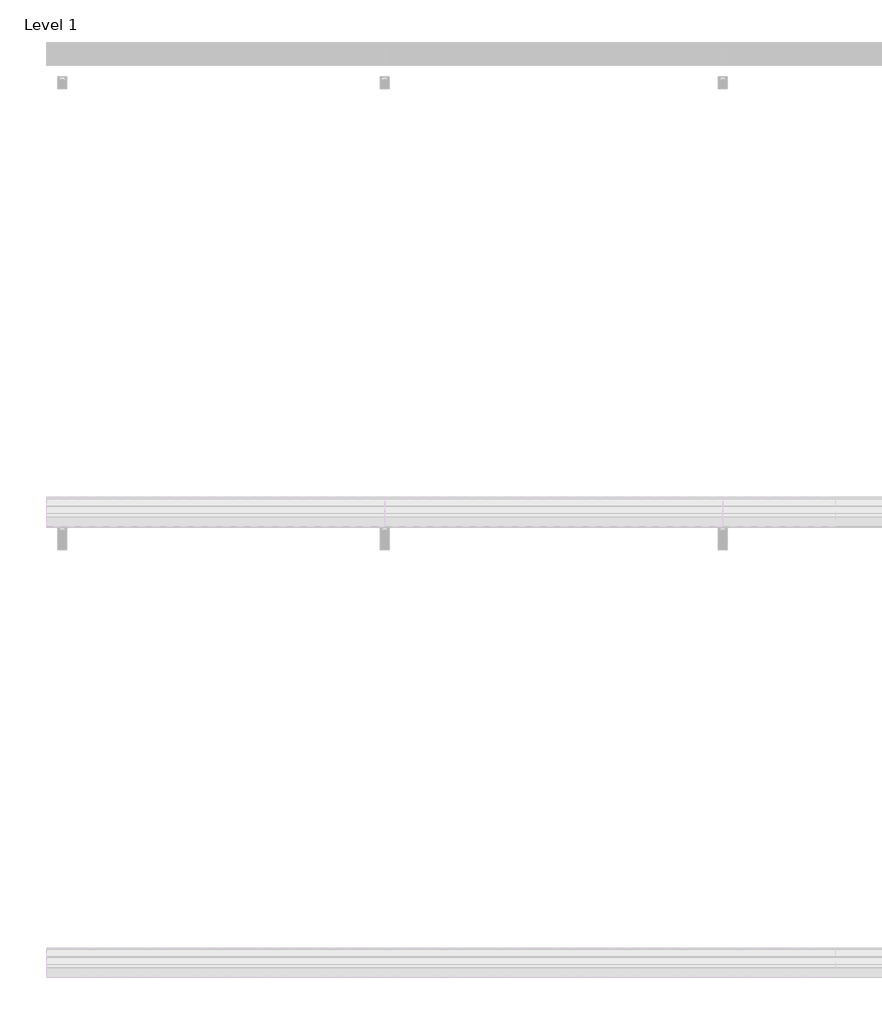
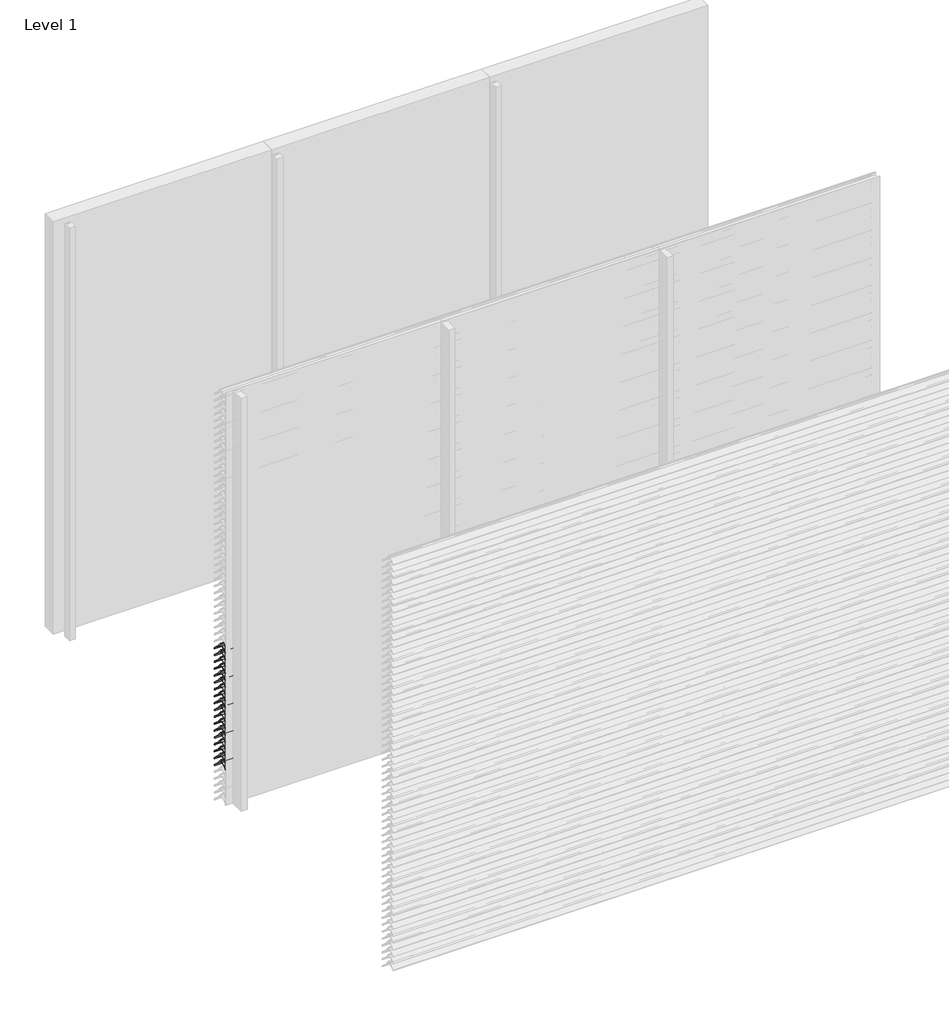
# One storey, part 60 of 173: 18 proxies.
"""IFC4 building model written with IfcOpenShell, lengths in millimetres."""

from ifc_helpers import new_model, si_unit, point, frame, frame_2d, origin, place, context, project, spatial, polyline, circle_curve, trimmed, segment, composite_curve, outline, extrude, element, save

model = new_model("IFC4")

# Units and contexts
model_context = context("Model", 3, world=origin())
ifc_project = project(units=[si_unit("LENGTHUNIT", "METRE", prefix="MILLI")], contexts=[model_context])

# Site, building, storey
site = spatial("IfcSite", under=ifc_project)
building = spatial("IfcBuilding", under=site)
storey = spatial("IfcBuildingStorey", under=building, Name="Level 1", Elevation=0.0)

# Proxies
placement = place(None, origin())
element("IfcBuildingElementProxy", 1, Name="Wall Sweeps", at=placement, inside=storey, context=model_context, shape_type="SweptSolid", body=[
    extrude(outline(composite_curve([segment(polyline([(-35998.0, 1109.1474905), (-35998.0, 1111.6227417)]), True, "CONTINUOUS"), segment(trimmed(circle_curve(frame_2d((-35951.2682172, 1066.2200208)), 65.1557103), [point((-35998.0, 1111.6227417))], [point((-35954.4014323, 1131.3003524))], False, "CARTESIAN"), True, "CONTINUOUS"), segment(polyline([(-35954.4014323, 1131.3003524), (-35934.8315836, 1131.3003524)]), True, "CONTINUOUS"), segment(trimmed(circle_curve(frame_2d((-35732.7329489, 1278.5533172)), 250.0545817), [point((-35934.8315836, 1131.3003524))], [point((-35941.4452143, 1140.8344583))], False, "CARTESIAN"), True, "CONTINUOUS"), segment(trimmed(circle_curve(frame_2d((-35953.2981792, 1135.1737835)), 13.1352966), [point((-35941.4452143, 1140.8344583))], [point((-35953.8171475, 1148.298824))], True, "CARTESIAN"), True, "CONTINUOUS"), segment(polyline([(-35953.8171475, 1148.298824), (-35953.8171475, 1150.0)]), True, "CONTINUOUS"), segment(trimmed(circle_curve(frame_2d((-35953.2981792, 1135.1737835)), 14.8352966), [point((-35953.8171475, 1150.0))], [point((-35939.9637661, 1141.6760487))], False, "CARTESIAN"), True, "CONTINUOUS"), segment(trimmed(circle_curve(frame_2d((-35732.7329489, 1278.5533172)), 248.3545817), [point((-35939.9637661, 1141.6760487))], [point((-35873.8787895, 1074.2059416))], True, "CARTESIAN"), True, "CONTINUOUS"), segment(trimmed(circle_curve(frame_2d((-35883.8147537, 1061.6649442)), 16.0), [point((-35873.8787895, 1074.2059416))], [point((-35867.8648347, 1060.4))], False, "CARTESIAN"), True, "CONTINUOUS"), segment(polyline([(-35867.8648347, 1060.4), (-35869.6712069, 1060.4)]), True, "CONTINUOUS"), segment(trimmed(circle_curve(frame_2d((-35883.8147537, 1061.6649442)), 14.2), [point((-35869.6712069, 1060.4))], [point((-35874.9518628, 1072.7594998))], True, "CARTESIAN"), True, "CONTINUOUS"), segment(trimmed(circle_curve(frame_2d((-35732.7329489, 1278.5533172)), 250.1545817), [point((-35874.9518628, 1072.7594998))], [point((-35933.7064024, 1129.6003524))], False, "CARTESIAN"), True, "CONTINUOUS"), segment(polyline([(-35933.7064024, 1129.6003524), (-35954.3602632, 1129.6003524)]), True, "CONTINUOUS"), segment(trimmed(circle_curve(frame_2d((-35951.2682172, 1066.2200208)), 63.4557103), [point((-35954.3602632, 1129.6003524))], [point((-35998.0, 1109.1474905))], True, "CARTESIAN"), True, "CONTINUOUS")], self_intersect=False)), frame((0.0, 0.0, 0.0), z_axis=(1.0, 0.0, 0.0), x_axis=(0.0, 1.0, 0.0)), (0.0, 0.0, 1.0), 1500.0),
])
element("IfcBuildingElementProxy", 2, Name="Wall Sweeps", at=placement, inside=storey, context=model_context, shape_type="SweptSolid", body=[
    extrude(outline(composite_curve([segment(polyline([(-35998.0, 1059.1474905), (-35998.0, 1061.6227417)]), True, "CONTINUOUS"), segment(trimmed(circle_curve(frame_2d((-35951.2682172, 1016.2200208)), 65.1557103), [point((-35998.0, 1061.6227417))], [point((-35954.4014323, 1081.3003524))], False, "CARTESIAN"), True, "CONTINUOUS"), segment(polyline([(-35954.4014323, 1081.3003524), (-35934.8315836, 1081.3003524)]), True, "CONTINUOUS"), segment(trimmed(circle_curve(frame_2d((-35732.7329489, 1228.5533172)), 250.0545817), [point((-35934.8315836, 1081.3003524))], [point((-35941.4452143, 1090.8344583))], False, "CARTESIAN"), True, "CONTINUOUS"), segment(trimmed(circle_curve(frame_2d((-35953.2981792, 1085.1737835)), 13.1352966), [point((-35941.4452143, 1090.8344583))], [point((-35953.8171475, 1098.298824))], True, "CARTESIAN"), True, "CONTINUOUS"), segment(polyline([(-35953.8171475, 1098.298824), (-35953.8171475, 1100.0)]), True, "CONTINUOUS"), segment(trimmed(circle_curve(frame_2d((-35953.2981792, 1085.1737835)), 14.8352966), [point((-35953.8171475, 1100.0))], [point((-35939.9637661, 1091.6760487))], False, "CARTESIAN"), True, "CONTINUOUS"), segment(trimmed(circle_curve(frame_2d((-35732.7329489, 1228.5533172)), 248.3545817), [point((-35939.9637661, 1091.6760487))], [point((-35873.8787895, 1024.2059416))], True, "CARTESIAN"), True, "CONTINUOUS"), segment(trimmed(circle_curve(frame_2d((-35883.8147537, 1011.6649442)), 16.0), [point((-35873.8787895, 1024.2059416))], [point((-35867.8648347, 1010.4))], False, "CARTESIAN"), True, "CONTINUOUS"), segment(polyline([(-35867.8648347, 1010.4), (-35869.6712069, 1010.4)]), True, "CONTINUOUS"), segment(trimmed(circle_curve(frame_2d((-35883.8147537, 1011.6649442)), 14.2), [point((-35869.6712069, 1010.4))], [point((-35874.9518628, 1022.7594998))], True, "CARTESIAN"), True, "CONTINUOUS"), segment(trimmed(circle_curve(frame_2d((-35732.7329489, 1228.5533172)), 250.1545817), [point((-35874.9518628, 1022.7594998))], [point((-35933.7064024, 1079.6003524))], False, "CARTESIAN"), True, "CONTINUOUS"), segment(polyline([(-35933.7064024, 1079.6003524), (-35954.3602632, 1079.6003524)]), True, "CONTINUOUS"), segment(trimmed(circle_curve(frame_2d((-35951.2682172, 1016.2200208)), 63.4557103), [point((-35954.3602632, 1079.6003524))], [point((-35998.0, 1059.1474905))], True, "CARTESIAN"), True, "CONTINUOUS")], self_intersect=False)), frame((0.0, 0.0, 0.0), z_axis=(1.0, 0.0, 0.0), x_axis=(0.0, 1.0, 0.0)), (0.0, 0.0, 1.0), 1500.0),
])
element("IfcBuildingElementProxy", 3, Name="Wall Sweeps", at=placement, inside=storey, context=model_context, shape_type="SweptSolid", body=[
    extrude(outline(composite_curve([segment(polyline([(-35998.0, 1009.1474905), (-35998.0, 1011.6227417)]), True, "CONTINUOUS"), segment(trimmed(circle_curve(frame_2d((-35951.2682172, 966.2200208)), 65.1557103), [point((-35998.0, 1011.6227417))], [point((-35954.4014323, 1031.3003524))], False, "CARTESIAN"), True, "CONTINUOUS"), segment(polyline([(-35954.4014323, 1031.3003524), (-35934.8315836, 1031.3003524)]), True, "CONTINUOUS"), segment(trimmed(circle_curve(frame_2d((-35732.7329489, 1178.5533172)), 250.0545817), [point((-35934.8315836, 1031.3003524))], [point((-35941.4452143, 1040.8344583))], False, "CARTESIAN"), True, "CONTINUOUS"), segment(trimmed(circle_curve(frame_2d((-35953.2981792, 1035.1737835)), 13.1352966), [point((-35941.4452143, 1040.8344583))], [point((-35953.8171475, 1048.298824))], True, "CARTESIAN"), True, "CONTINUOUS"), segment(polyline([(-35953.8171475, 1048.298824), (-35953.8171475, 1050.0)]), True, "CONTINUOUS"), segment(trimmed(circle_curve(frame_2d((-35953.2981792, 1035.1737835)), 14.8352966), [point((-35953.8171475, 1050.0))], [point((-35939.9637661, 1041.6760487))], False, "CARTESIAN"), True, "CONTINUOUS"), segment(trimmed(circle_curve(frame_2d((-35732.7329489, 1178.5533172)), 248.3545817), [point((-35939.9637661, 1041.6760487))], [point((-35873.8787895, 974.2059416))], True, "CARTESIAN"), True, "CONTINUOUS"), segment(trimmed(circle_curve(frame_2d((-35883.8147537, 961.6649442)), 16.0), [point((-35873.8787895, 974.2059416))], [point((-35867.8648347, 960.4))], False, "CARTESIAN"), True, "CONTINUOUS"), segment(polyline([(-35867.8648347, 960.4), (-35869.6712069, 960.4)]), True, "CONTINUOUS"), segment(trimmed(circle_curve(frame_2d((-35883.8147537, 961.6649442)), 14.2), [point((-35869.6712069, 960.4))], [point((-35874.9518628, 972.7594998))], True, "CARTESIAN"), True, "CONTINUOUS"), segment(trimmed(circle_curve(frame_2d((-35732.7329489, 1178.5533172)), 250.1545817), [point((-35874.9518628, 972.7594998))], [point((-35933.7064024, 1029.6003524))], False, "CARTESIAN"), True, "CONTINUOUS"), segment(polyline([(-35933.7064024, 1029.6003524), (-35954.3602632, 1029.6003524)]), True, "CONTINUOUS"), segment(trimmed(circle_curve(frame_2d((-35951.2682172, 966.2200208)), 63.4557103), [point((-35954.3602632, 1029.6003524))], [point((-35998.0, 1009.1474905))], True, "CARTESIAN"), True, "CONTINUOUS")], self_intersect=False)), frame((0.0, 0.0, 0.0), z_axis=(1.0, 0.0, 0.0), x_axis=(0.0, 1.0, 0.0)), (0.0, 0.0, 1.0), 1500.0),
])
element("IfcBuildingElementProxy", 4, Name="Wall Sweeps", at=placement, inside=storey, context=model_context, shape_type="SweptSolid", body=[
    extrude(outline(composite_curve([segment(polyline([(-35998.0, 959.1474905), (-35998.0, 961.6227417)]), True, "CONTINUOUS"), segment(trimmed(circle_curve(frame_2d((-35951.2682172, 916.2200208)), 65.1557103), [point((-35998.0, 961.6227417))], [point((-35954.4014323, 981.3003524))], False, "CARTESIAN"), True, "CONTINUOUS"), segment(polyline([(-35954.4014323, 981.3003524), (-35934.8315836, 981.3003524)]), True, "CONTINUOUS"), segment(trimmed(circle_curve(frame_2d((-35732.7329489, 1128.5533172)), 250.0545817), [point((-35934.8315836, 981.3003524))], [point((-35941.4452143, 990.8344583))], False, "CARTESIAN"), True, "CONTINUOUS"), segment(trimmed(circle_curve(frame_2d((-35953.2981792, 985.1737835)), 13.1352966), [point((-35941.4452143, 990.8344583))], [point((-35953.8171475, 998.298824))], True, "CARTESIAN"), True, "CONTINUOUS"), segment(polyline([(-35953.8171475, 998.298824), (-35953.8171475, 1000.0)]), True, "CONTINUOUS"), segment(trimmed(circle_curve(frame_2d((-35953.2981792, 985.1737835)), 14.8352966), [point((-35953.8171475, 1000.0))], [point((-35939.9637661, 991.6760487))], False, "CARTESIAN"), True, "CONTINUOUS"), segment(trimmed(circle_curve(frame_2d((-35732.7329489, 1128.5533172)), 248.3545817), [point((-35939.9637661, 991.6760487))], [point((-35873.8787895, 924.2059416))], True, "CARTESIAN"), True, "CONTINUOUS"), segment(trimmed(circle_curve(frame_2d((-35883.8147537, 911.6649442)), 16.0), [point((-35873.8787895, 924.2059416))], [point((-35867.8648347, 910.4))], False, "CARTESIAN"), True, "CONTINUOUS"), segment(polyline([(-35867.8648347, 910.4), (-35869.6712069, 910.4)]), True, "CONTINUOUS"), segment(trimmed(circle_curve(frame_2d((-35883.8147537, 911.6649442)), 14.2), [point((-35869.6712069, 910.4))], [point((-35874.9518628, 922.7594998))], True, "CARTESIAN"), True, "CONTINUOUS"), segment(trimmed(circle_curve(frame_2d((-35732.7329489, 1128.5533172)), 250.1545817), [point((-35874.9518628, 922.7594998))], [point((-35933.7064024, 979.6003524))], False, "CARTESIAN"), True, "CONTINUOUS"), segment(polyline([(-35933.7064024, 979.6003524), (-35954.3602632, 979.6003524)]), True, "CONTINUOUS"), segment(trimmed(circle_curve(frame_2d((-35951.2682172, 916.2200208)), 63.4557103), [point((-35954.3602632, 979.6003524))], [point((-35998.0, 959.1474905))], True, "CARTESIAN"), True, "CONTINUOUS")], self_intersect=False)), frame((0.0, 0.0, 0.0), z_axis=(1.0, 0.0, 0.0), x_axis=(0.0, 1.0, 0.0)), (0.0, 0.0, 1.0), 1500.0),
])
element("IfcBuildingElementProxy", 5, Name="Wall Sweeps", at=placement, inside=storey, context=model_context, shape_type="SweptSolid", body=[
    extrude(outline(composite_curve([segment(polyline([(-35998.0, 909.1474905), (-35998.0, 911.6227417)]), True, "CONTINUOUS"), segment(trimmed(circle_curve(frame_2d((-35951.2682172, 866.2200208)), 65.1557103), [point((-35998.0, 911.6227417))], [point((-35954.4014323, 931.3003524))], False, "CARTESIAN"), True, "CONTINUOUS"), segment(polyline([(-35954.4014323, 931.3003524), (-35934.8315836, 931.3003524)]), True, "CONTINUOUS"), segment(trimmed(circle_curve(frame_2d((-35732.7329489, 1078.5533172)), 250.0545817), [point((-35934.8315836, 931.3003524))], [point((-35941.4452143, 940.8344583))], False, "CARTESIAN"), True, "CONTINUOUS"), segment(trimmed(circle_curve(frame_2d((-35953.2981792, 935.1737835)), 13.1352966), [point((-35941.4452143, 940.8344583))], [point((-35953.8171475, 948.298824))], True, "CARTESIAN"), True, "CONTINUOUS"), segment(polyline([(-35953.8171475, 948.298824), (-35953.8171475, 950.0)]), True, "CONTINUOUS"), segment(trimmed(circle_curve(frame_2d((-35953.2981792, 935.1737835)), 14.8352966), [point((-35953.8171475, 950.0))], [point((-35939.9637661, 941.6760487))], False, "CARTESIAN"), True, "CONTINUOUS"), segment(trimmed(circle_curve(frame_2d((-35732.7329489, 1078.5533172)), 248.3545817), [point((-35939.9637661, 941.6760487))], [point((-35873.8787895, 874.2059416))], True, "CARTESIAN"), True, "CONTINUOUS"), segment(trimmed(circle_curve(frame_2d((-35883.8147537, 861.6649442)), 16.0), [point((-35873.8787895, 874.2059416))], [point((-35867.8648347, 860.4))], False, "CARTESIAN"), True, "CONTINUOUS"), segment(polyline([(-35867.8648347, 860.4), (-35869.6712069, 860.4)]), True, "CONTINUOUS"), segment(trimmed(circle_curve(frame_2d((-35883.8147537, 861.6649442)), 14.2), [point((-35869.6712069, 860.4))], [point((-35874.9518628, 872.7594998))], True, "CARTESIAN"), True, "CONTINUOUS"), segment(trimmed(circle_curve(frame_2d((-35732.7329489, 1078.5533172)), 250.1545817), [point((-35874.9518628, 872.7594998))], [point((-35933.7064024, 929.6003524))], False, "CARTESIAN"), True, "CONTINUOUS"), segment(polyline([(-35933.7064024, 929.6003524), (-35954.3602632, 929.6003524)]), True, "CONTINUOUS"), segment(trimmed(circle_curve(frame_2d((-35951.2682172, 866.2200208)), 63.4557103), [point((-35954.3602632, 929.6003524))], [point((-35998.0, 909.1474905))], True, "CARTESIAN"), True, "CONTINUOUS")], self_intersect=False)), frame((0.0, 0.0, 0.0), z_axis=(1.0, 0.0, 0.0), x_axis=(0.0, 1.0, 0.0)), (0.0, 0.0, 1.0), 1500.0),
])
element("IfcBuildingElementProxy", 6, Name="Wall Sweeps", at=placement, inside=storey, context=model_context, shape_type="SweptSolid", body=[
    extrude(outline(composite_curve([segment(polyline([(-35998.0, 859.1474905), (-35998.0, 861.6227417)]), True, "CONTINUOUS"), segment(trimmed(circle_curve(frame_2d((-35951.2682172, 816.2200208)), 65.1557103), [point((-35998.0, 861.6227417))], [point((-35954.4014323, 881.3003524))], False, "CARTESIAN"), True, "CONTINUOUS"), segment(polyline([(-35954.4014323, 881.3003524), (-35934.8315836, 881.3003524)]), True, "CONTINUOUS"), segment(trimmed(circle_curve(frame_2d((-35732.7329489, 1028.5533172)), 250.0545817), [point((-35934.8315836, 881.3003524))], [point((-35941.4452143, 890.8344583))], False, "CARTESIAN"), True, "CONTINUOUS"), segment(trimmed(circle_curve(frame_2d((-35953.2981792, 885.1737835)), 13.1352966), [point((-35941.4452143, 890.8344583))], [point((-35953.8171475, 898.298824))], True, "CARTESIAN"), True, "CONTINUOUS"), segment(polyline([(-35953.8171475, 898.298824), (-35953.8171475, 900.0)]), True, "CONTINUOUS"), segment(trimmed(circle_curve(frame_2d((-35953.2981792, 885.1737835)), 14.8352966), [point((-35953.8171475, 900.0))], [point((-35939.9637661, 891.6760487))], False, "CARTESIAN"), True, "CONTINUOUS"), segment(trimmed(circle_curve(frame_2d((-35732.7329489, 1028.5533172)), 248.3545817), [point((-35939.9637661, 891.6760487))], [point((-35873.8787895, 824.2059416))], True, "CARTESIAN"), True, "CONTINUOUS"), segment(trimmed(circle_curve(frame_2d((-35883.8147537, 811.6649442)), 16.0), [point((-35873.8787895, 824.2059416))], [point((-35867.8648347, 810.4))], False, "CARTESIAN"), True, "CONTINUOUS"), segment(polyline([(-35867.8648347, 810.4), (-35869.6712069, 810.4)]), True, "CONTINUOUS"), segment(trimmed(circle_curve(frame_2d((-35883.8147537, 811.6649442)), 14.2), [point((-35869.6712069, 810.4))], [point((-35874.9518628, 822.7594998))], True, "CARTESIAN"), True, "CONTINUOUS"), segment(trimmed(circle_curve(frame_2d((-35732.7329489, 1028.5533172)), 250.1545817), [point((-35874.9518628, 822.7594998))], [point((-35933.7064024, 879.6003524))], False, "CARTESIAN"), True, "CONTINUOUS"), segment(polyline([(-35933.7064024, 879.6003524), (-35954.3602632, 879.6003524)]), True, "CONTINUOUS"), segment(trimmed(circle_curve(frame_2d((-35951.2682172, 816.2200208)), 63.4557103), [point((-35954.3602632, 879.6003524))], [point((-35998.0, 859.1474905))], True, "CARTESIAN"), True, "CONTINUOUS")], self_intersect=False)), frame((0.0, 0.0, 0.0), z_axis=(1.0, 0.0, 0.0), x_axis=(0.0, 1.0, 0.0)), (0.0, 0.0, 1.0), 1500.0),
])
element("IfcBuildingElementProxy", 7, Name="Wall Sweeps", at=placement, inside=storey, context=model_context, shape_type="SweptSolid", body=[
    extrude(outline(composite_curve([segment(polyline([(-35998.0, 809.1474905), (-35998.0, 811.6227417)]), True, "CONTINUOUS"), segment(trimmed(circle_curve(frame_2d((-35951.2682172, 766.2200208)), 65.1557103), [point((-35998.0, 811.6227417))], [point((-35954.4014323, 831.3003524))], False, "CARTESIAN"), True, "CONTINUOUS"), segment(polyline([(-35954.4014323, 831.3003524), (-35934.8315836, 831.3003524)]), True, "CONTINUOUS"), segment(trimmed(circle_curve(frame_2d((-35732.7329489, 978.5533172)), 250.0545817), [point((-35934.8315836, 831.3003524))], [point((-35941.4452143, 840.8344583))], False, "CARTESIAN"), True, "CONTINUOUS"), segment(trimmed(circle_curve(frame_2d((-35953.2981792, 835.1737835)), 13.1352966), [point((-35941.4452143, 840.8344583))], [point((-35953.8171475, 848.298824))], True, "CARTESIAN"), True, "CONTINUOUS"), segment(polyline([(-35953.8171475, 848.298824), (-35953.8171475, 850.0)]), True, "CONTINUOUS"), segment(trimmed(circle_curve(frame_2d((-35953.2981792, 835.1737835)), 14.8352966), [point((-35953.8171475, 850.0))], [point((-35939.9637661, 841.6760487))], False, "CARTESIAN"), True, "CONTINUOUS"), segment(trimmed(circle_curve(frame_2d((-35732.7329489, 978.5533172)), 248.3545817), [point((-35939.9637661, 841.6760487))], [point((-35873.8787895, 774.2059416))], True, "CARTESIAN"), True, "CONTINUOUS"), segment(trimmed(circle_curve(frame_2d((-35883.8147537, 761.6649442)), 16.0), [point((-35873.8787895, 774.2059416))], [point((-35867.8648347, 760.4))], False, "CARTESIAN"), True, "CONTINUOUS"), segment(polyline([(-35867.8648347, 760.4), (-35869.6712069, 760.4)]), True, "CONTINUOUS"), segment(trimmed(circle_curve(frame_2d((-35883.8147537, 761.6649442)), 14.2), [point((-35869.6712069, 760.4))], [point((-35874.9518628, 772.7594998))], True, "CARTESIAN"), True, "CONTINUOUS"), segment(trimmed(circle_curve(frame_2d((-35732.7329489, 978.5533172)), 250.1545817), [point((-35874.9518628, 772.7594998))], [point((-35933.7064024, 829.6003524))], False, "CARTESIAN"), True, "CONTINUOUS"), segment(polyline([(-35933.7064024, 829.6003524), (-35954.3602632, 829.6003524)]), True, "CONTINUOUS"), segment(trimmed(circle_curve(frame_2d((-35951.2682172, 766.2200208)), 63.4557103), [point((-35954.3602632, 829.6003524))], [point((-35998.0, 809.1474905))], True, "CARTESIAN"), True, "CONTINUOUS")], self_intersect=False)), frame((0.0, 0.0, 0.0), z_axis=(1.0, 0.0, 0.0), x_axis=(0.0, 1.0, 0.0)), (0.0, 0.0, 1.0), 1500.0),
])
element("IfcBuildingElementProxy", 8, Name="Wall Sweeps", at=placement, inside=storey, context=model_context, shape_type="SweptSolid", body=[
    extrude(outline(composite_curve([segment(polyline([(-35998.0, 759.1474905), (-35998.0, 761.6227417)]), True, "CONTINUOUS"), segment(trimmed(circle_curve(frame_2d((-35951.2682172, 716.2200208)), 65.1557103), [point((-35998.0, 761.6227417))], [point((-35954.4014323, 781.3003524))], False, "CARTESIAN"), True, "CONTINUOUS"), segment(polyline([(-35954.4014323, 781.3003524), (-35934.8315836, 781.3003524)]), True, "CONTINUOUS"), segment(trimmed(circle_curve(frame_2d((-35732.7329489, 928.5533172)), 250.0545817), [point((-35934.8315836, 781.3003524))], [point((-35941.4452143, 790.8344583))], False, "CARTESIAN"), True, "CONTINUOUS"), segment(trimmed(circle_curve(frame_2d((-35953.2981792, 785.1737835)), 13.1352966), [point((-35941.4452143, 790.8344583))], [point((-35953.8171475, 798.298824))], True, "CARTESIAN"), True, "CONTINUOUS"), segment(polyline([(-35953.8171475, 798.298824), (-35953.8171475, 800.0)]), True, "CONTINUOUS"), segment(trimmed(circle_curve(frame_2d((-35953.2981792, 785.1737835)), 14.8352966), [point((-35953.8171475, 800.0))], [point((-35939.9637661, 791.6760487))], False, "CARTESIAN"), True, "CONTINUOUS"), segment(trimmed(circle_curve(frame_2d((-35732.7329489, 928.5533172)), 248.3545817), [point((-35939.9637661, 791.6760487))], [point((-35873.8787895, 724.2059416))], True, "CARTESIAN"), True, "CONTINUOUS"), segment(trimmed(circle_curve(frame_2d((-35883.8147537, 711.6649442)), 16.0), [point((-35873.8787895, 724.2059416))], [point((-35867.8648347, 710.4))], False, "CARTESIAN"), True, "CONTINUOUS"), segment(polyline([(-35867.8648347, 710.4), (-35869.6712069, 710.4)]), True, "CONTINUOUS"), segment(trimmed(circle_curve(frame_2d((-35883.8147537, 711.6649442)), 14.2), [point((-35869.6712069, 710.4))], [point((-35874.9518628, 722.7594998))], True, "CARTESIAN"), True, "CONTINUOUS"), segment(trimmed(circle_curve(frame_2d((-35732.7329489, 928.5533172)), 250.1545817), [point((-35874.9518628, 722.7594998))], [point((-35933.7064024, 779.6003524))], False, "CARTESIAN"), True, "CONTINUOUS"), segment(polyline([(-35933.7064024, 779.6003524), (-35954.3602632, 779.6003524)]), True, "CONTINUOUS"), segment(trimmed(circle_curve(frame_2d((-35951.2682172, 716.2200208)), 63.4557103), [point((-35954.3602632, 779.6003524))], [point((-35998.0, 759.1474905))], True, "CARTESIAN"), True, "CONTINUOUS")], self_intersect=False)), frame((0.0, 0.0, 0.0), z_axis=(1.0, 0.0, 0.0), x_axis=(0.0, 1.0, 0.0)), (0.0, 0.0, 1.0), 1500.0),
])
element("IfcBuildingElementProxy", 9, Name="Wall Sweeps", at=placement, inside=storey, context=model_context, shape_type="SweptSolid", body=[
    extrude(outline(composite_curve([segment(polyline([(-35998.0, 709.1474905), (-35998.0, 711.6227417)]), True, "CONTINUOUS"), segment(trimmed(circle_curve(frame_2d((-35951.2682172, 666.2200208)), 65.1557103), [point((-35998.0, 711.6227417))], [point((-35954.4014323, 731.3003524))], False, "CARTESIAN"), True, "CONTINUOUS"), segment(polyline([(-35954.4014323, 731.3003524), (-35934.8315836, 731.3003524)]), True, "CONTINUOUS"), segment(trimmed(circle_curve(frame_2d((-35732.7329489, 878.5533172)), 250.0545817), [point((-35934.8315836, 731.3003524))], [point((-35941.4452143, 740.8344583))], False, "CARTESIAN"), True, "CONTINUOUS"), segment(trimmed(circle_curve(frame_2d((-35953.2981792, 735.1737835)), 13.1352966), [point((-35941.4452143, 740.8344583))], [point((-35953.8171475, 748.298824))], True, "CARTESIAN"), True, "CONTINUOUS"), segment(polyline([(-35953.8171475, 748.298824), (-35953.8171475, 750.0)]), True, "CONTINUOUS"), segment(trimmed(circle_curve(frame_2d((-35953.2981792, 735.1737835)), 14.8352966), [point((-35953.8171475, 750.0))], [point((-35939.9637661, 741.6760487))], False, "CARTESIAN"), True, "CONTINUOUS"), segment(trimmed(circle_curve(frame_2d((-35732.7329489, 878.5533172)), 248.3545817), [point((-35939.9637661, 741.6760487))], [point((-35873.8787895, 674.2059416))], True, "CARTESIAN"), True, "CONTINUOUS"), segment(trimmed(circle_curve(frame_2d((-35883.8147537, 661.6649442)), 16.0), [point((-35873.8787895, 674.2059416))], [point((-35867.8648347, 660.4))], False, "CARTESIAN"), True, "CONTINUOUS"), segment(polyline([(-35867.8648347, 660.4), (-35869.6712069, 660.4)]), True, "CONTINUOUS"), segment(trimmed(circle_curve(frame_2d((-35883.8147537, 661.6649442)), 14.2), [point((-35869.6712069, 660.4))], [point((-35874.9518628, 672.7594998))], True, "CARTESIAN"), True, "CONTINUOUS"), segment(trimmed(circle_curve(frame_2d((-35732.7329489, 878.5533172)), 250.1545817), [point((-35874.9518628, 672.7594998))], [point((-35933.7064024, 729.6003524))], False, "CARTESIAN"), True, "CONTINUOUS"), segment(polyline([(-35933.7064024, 729.6003524), (-35954.3602632, 729.6003524)]), True, "CONTINUOUS"), segment(trimmed(circle_curve(frame_2d((-35951.2682172, 666.2200208)), 63.4557103), [point((-35954.3602632, 729.6003524))], [point((-35998.0, 709.1474905))], True, "CARTESIAN"), True, "CONTINUOUS")], self_intersect=False)), frame((0.0, 0.0, 0.0), z_axis=(1.0, 0.0, 0.0), x_axis=(0.0, 1.0, 0.0)), (0.0, 0.0, 1.0), 1500.0),
])
element("IfcBuildingElementProxy", 10, Name="Wall Sweeps", at=placement, inside=storey, context=model_context, shape_type="SweptSolid", body=[
    extrude(outline(composite_curve([segment(polyline([(-35998.0, 659.1474905), (-35998.0, 661.6227417)]), True, "CONTINUOUS"), segment(trimmed(circle_curve(frame_2d((-35951.2682172, 616.2200208)), 65.1557103), [point((-35998.0, 661.6227417))], [point((-35954.4014323, 681.3003524))], False, "CARTESIAN"), True, "CONTINUOUS"), segment(polyline([(-35954.4014323, 681.3003524), (-35934.8315836, 681.3003524)]), True, "CONTINUOUS"), segment(trimmed(circle_curve(frame_2d((-35732.7329489, 828.5533172)), 250.0545817), [point((-35934.8315836, 681.3003524))], [point((-35941.4452143, 690.8344583))], False, "CARTESIAN"), True, "CONTINUOUS"), segment(trimmed(circle_curve(frame_2d((-35953.2981792, 685.1737835)), 13.1352966), [point((-35941.4452143, 690.8344583))], [point((-35953.8171475, 698.298824))], True, "CARTESIAN"), True, "CONTINUOUS"), segment(polyline([(-35953.8171475, 698.298824), (-35953.8171475, 700.0)]), True, "CONTINUOUS"), segment(trimmed(circle_curve(frame_2d((-35953.2981792, 685.1737835)), 14.8352966), [point((-35953.8171475, 700.0))], [point((-35939.9637661, 691.6760487))], False, "CARTESIAN"), True, "CONTINUOUS"), segment(trimmed(circle_curve(frame_2d((-35732.7329489, 828.5533172)), 248.3545817), [point((-35939.9637661, 691.6760487))], [point((-35873.8787895, 624.2059416))], True, "CARTESIAN"), True, "CONTINUOUS"), segment(trimmed(circle_curve(frame_2d((-35883.8147537, 611.6649442)), 16.0), [point((-35873.8787895, 624.2059416))], [point((-35867.8648347, 610.4))], False, "CARTESIAN"), True, "CONTINUOUS"), segment(polyline([(-35867.8648347, 610.4), (-35869.6712069, 610.4)]), True, "CONTINUOUS"), segment(trimmed(circle_curve(frame_2d((-35883.8147537, 611.6649442)), 14.2), [point((-35869.6712069, 610.4))], [point((-35874.9518628, 622.7594998))], True, "CARTESIAN"), True, "CONTINUOUS"), segment(trimmed(circle_curve(frame_2d((-35732.7329489, 828.5533172)), 250.1545817), [point((-35874.9518628, 622.7594998))], [point((-35933.7064024, 679.6003524))], False, "CARTESIAN"), True, "CONTINUOUS"), segment(polyline([(-35933.7064024, 679.6003524), (-35954.3602632, 679.6003524)]), True, "CONTINUOUS"), segment(trimmed(circle_curve(frame_2d((-35951.2682172, 616.2200208)), 63.4557103), [point((-35954.3602632, 679.6003524))], [point((-35998.0, 659.1474905))], True, "CARTESIAN"), True, "CONTINUOUS")], self_intersect=False)), frame((0.0, 0.0, 0.0), z_axis=(1.0, 0.0, 0.0), x_axis=(0.0, 1.0, 0.0)), (0.0, 0.0, 1.0), 1500.0),
])
element("IfcBuildingElementProxy", 11, Name="Wall Sweeps", at=placement, inside=storey, context=model_context, shape_type="SweptSolid", body=[
    extrude(outline(composite_curve([segment(polyline([(-35998.0, 609.1474905), (-35998.0, 611.6227417)]), True, "CONTINUOUS"), segment(trimmed(circle_curve(frame_2d((-35951.2682172, 566.2200208)), 65.1557103), [point((-35998.0, 611.6227417))], [point((-35954.4014323, 631.3003524))], False, "CARTESIAN"), True, "CONTINUOUS"), segment(polyline([(-35954.4014323, 631.3003524), (-35934.8315836, 631.3003524)]), True, "CONTINUOUS"), segment(trimmed(circle_curve(frame_2d((-35732.7329489, 778.5533172)), 250.0545817), [point((-35934.8315836, 631.3003524))], [point((-35941.4452143, 640.8344583))], False, "CARTESIAN"), True, "CONTINUOUS"), segment(trimmed(circle_curve(frame_2d((-35953.2981792, 635.1737835)), 13.1352966), [point((-35941.4452143, 640.8344583))], [point((-35953.8171475, 648.298824))], True, "CARTESIAN"), True, "CONTINUOUS"), segment(polyline([(-35953.8171475, 648.298824), (-35953.8171475, 650.0)]), True, "CONTINUOUS"), segment(trimmed(circle_curve(frame_2d((-35953.2981792, 635.1737835)), 14.8352966), [point((-35953.8171475, 650.0))], [point((-35939.9637661, 641.6760487))], False, "CARTESIAN"), True, "CONTINUOUS"), segment(trimmed(circle_curve(frame_2d((-35732.7329489, 778.5533172)), 248.3545817), [point((-35939.9637661, 641.6760487))], [point((-35873.8787895, 574.2059416))], True, "CARTESIAN"), True, "CONTINUOUS"), segment(trimmed(circle_curve(frame_2d((-35883.8147537, 561.6649442)), 16.0), [point((-35873.8787895, 574.2059416))], [point((-35867.8648347, 560.4))], False, "CARTESIAN"), True, "CONTINUOUS"), segment(polyline([(-35867.8648347, 560.4), (-35869.6712069, 560.4)]), True, "CONTINUOUS"), segment(trimmed(circle_curve(frame_2d((-35883.8147537, 561.6649442)), 14.2), [point((-35869.6712069, 560.4))], [point((-35874.9518628, 572.7594998))], True, "CARTESIAN"), True, "CONTINUOUS"), segment(trimmed(circle_curve(frame_2d((-35732.7329489, 778.5533172)), 250.1545817), [point((-35874.9518628, 572.7594998))], [point((-35933.7064024, 629.6003524))], False, "CARTESIAN"), True, "CONTINUOUS"), segment(polyline([(-35933.7064024, 629.6003524), (-35954.3602632, 629.6003524)]), True, "CONTINUOUS"), segment(trimmed(circle_curve(frame_2d((-35951.2682172, 566.2200208)), 63.4557103), [point((-35954.3602632, 629.6003524))], [point((-35998.0, 609.1474905))], True, "CARTESIAN"), True, "CONTINUOUS")], self_intersect=False)), frame((0.0, 0.0, 0.0), z_axis=(1.0, 0.0, 0.0), x_axis=(0.0, 1.0, 0.0)), (0.0, 0.0, 1.0), 1500.0),
])
element("IfcBuildingElementProxy", 12, Name="Wall Sweeps", at=placement, inside=storey, context=model_context, shape_type="SweptSolid", body=[
    extrude(outline(composite_curve([segment(polyline([(-35998.0, 559.1474905), (-35998.0, 561.6227417)]), True, "CONTINUOUS"), segment(trimmed(circle_curve(frame_2d((-35951.2682172, 516.2200208)), 65.1557103), [point((-35998.0, 561.6227417))], [point((-35954.4014323, 581.3003524))], False, "CARTESIAN"), True, "CONTINUOUS"), segment(polyline([(-35954.4014323, 581.3003524), (-35934.8315836, 581.3003524)]), True, "CONTINUOUS"), segment(trimmed(circle_curve(frame_2d((-35732.7329489, 728.5533172)), 250.0545817), [point((-35934.8315836, 581.3003524))], [point((-35941.4452143, 590.8344583))], False, "CARTESIAN"), True, "CONTINUOUS"), segment(trimmed(circle_curve(frame_2d((-35953.2981792, 585.1737835)), 13.1352966), [point((-35941.4452143, 590.8344583))], [point((-35953.8171475, 598.298824))], True, "CARTESIAN"), True, "CONTINUOUS"), segment(polyline([(-35953.8171475, 598.298824), (-35953.8171475, 600.0)]), True, "CONTINUOUS"), segment(trimmed(circle_curve(frame_2d((-35953.2981792, 585.1737835)), 14.8352966), [point((-35953.8171475, 600.0))], [point((-35939.9637661, 591.6760487))], False, "CARTESIAN"), True, "CONTINUOUS"), segment(trimmed(circle_curve(frame_2d((-35732.7329489, 728.5533172)), 248.3545817), [point((-35939.9637661, 591.6760487))], [point((-35873.8787895, 524.2059416))], True, "CARTESIAN"), True, "CONTINUOUS"), segment(trimmed(circle_curve(frame_2d((-35883.8147537, 511.6649442)), 16.0), [point((-35873.8787895, 524.2059416))], [point((-35867.8648347, 510.4))], False, "CARTESIAN"), True, "CONTINUOUS"), segment(polyline([(-35867.8648347, 510.4), (-35869.6712069, 510.4)]), True, "CONTINUOUS"), segment(trimmed(circle_curve(frame_2d((-35883.8147537, 511.6649442)), 14.2), [point((-35869.6712069, 510.4))], [point((-35874.9518628, 522.7594998))], True, "CARTESIAN"), True, "CONTINUOUS"), segment(trimmed(circle_curve(frame_2d((-35732.7329489, 728.5533172)), 250.1545817), [point((-35874.9518628, 522.7594998))], [point((-35933.7064024, 579.6003524))], False, "CARTESIAN"), True, "CONTINUOUS"), segment(polyline([(-35933.7064024, 579.6003524), (-35954.3602632, 579.6003524)]), True, "CONTINUOUS"), segment(trimmed(circle_curve(frame_2d((-35951.2682172, 516.2200208)), 63.4557103), [point((-35954.3602632, 579.6003524))], [point((-35998.0, 559.1474905))], True, "CARTESIAN"), True, "CONTINUOUS")], self_intersect=False)), frame((0.0, 0.0, 0.0), z_axis=(1.0, 0.0, 0.0), x_axis=(0.0, 1.0, 0.0)), (0.0, 0.0, 1.0), 1500.0),
])
element("IfcBuildingElementProxy", 13, Name="Wall Sweeps", at=placement, inside=storey, context=model_context, shape_type="SweptSolid", body=[
    extrude(outline(composite_curve([segment(polyline([(-35998.0, 509.1474905), (-35998.0, 511.6227417)]), True, "CONTINUOUS"), segment(trimmed(circle_curve(frame_2d((-35951.2682172, 466.2200208)), 65.1557103), [point((-35998.0, 511.6227417))], [point((-35954.4014323, 531.3003524))], False, "CARTESIAN"), True, "CONTINUOUS"), segment(polyline([(-35954.4014323, 531.3003524), (-35934.8315836, 531.3003524)]), True, "CONTINUOUS"), segment(trimmed(circle_curve(frame_2d((-35732.7329489, 678.5533172)), 250.0545817), [point((-35934.8315836, 531.3003524))], [point((-35941.4452143, 540.8344583))], False, "CARTESIAN"), True, "CONTINUOUS"), segment(trimmed(circle_curve(frame_2d((-35953.2981792, 535.1737835)), 13.1352966), [point((-35941.4452143, 540.8344583))], [point((-35953.8171475, 548.298824))], True, "CARTESIAN"), True, "CONTINUOUS"), segment(polyline([(-35953.8171475, 548.298824), (-35953.8171475, 550.0)]), True, "CONTINUOUS"), segment(trimmed(circle_curve(frame_2d((-35953.2981792, 535.1737835)), 14.8352966), [point((-35953.8171475, 550.0))], [point((-35939.9637661, 541.6760487))], False, "CARTESIAN"), True, "CONTINUOUS"), segment(trimmed(circle_curve(frame_2d((-35732.7329489, 678.5533172)), 248.3545817), [point((-35939.9637661, 541.6760487))], [point((-35873.8787895, 474.2059416))], True, "CARTESIAN"), True, "CONTINUOUS"), segment(trimmed(circle_curve(frame_2d((-35883.8147537, 461.6649442)), 16.0), [point((-35873.8787895, 474.2059416))], [point((-35867.8648347, 460.4))], False, "CARTESIAN"), True, "CONTINUOUS"), segment(polyline([(-35867.8648347, 460.4), (-35869.6712069, 460.4)]), True, "CONTINUOUS"), segment(trimmed(circle_curve(frame_2d((-35883.8147537, 461.6649442)), 14.2), [point((-35869.6712069, 460.4))], [point((-35874.9518628, 472.7594998))], True, "CARTESIAN"), True, "CONTINUOUS"), segment(trimmed(circle_curve(frame_2d((-35732.7329489, 678.5533172)), 250.1545817), [point((-35874.9518628, 472.7594998))], [point((-35933.7064024, 529.6003524))], False, "CARTESIAN"), True, "CONTINUOUS"), segment(polyline([(-35933.7064024, 529.6003524), (-35954.3602632, 529.6003524)]), True, "CONTINUOUS"), segment(trimmed(circle_curve(frame_2d((-35951.2682172, 466.2200208)), 63.4557103), [point((-35954.3602632, 529.6003524))], [point((-35998.0, 509.1474905))], True, "CARTESIAN"), True, "CONTINUOUS")], self_intersect=False)), frame((0.0, 0.0, 0.0), z_axis=(1.0, 0.0, 0.0), x_axis=(0.0, 1.0, 0.0)), (0.0, 0.0, 1.0), 1500.0),
])
element("IfcBuildingElementProxy", 14, Name="Wall Sweeps", at=placement, inside=storey, context=model_context, shape_type="SweptSolid", body=[
    extrude(outline(composite_curve([segment(polyline([(-35998.0, 459.1474905), (-35998.0, 461.6227417)]), True, "CONTINUOUS"), segment(trimmed(circle_curve(frame_2d((-35951.2682172, 416.2200208)), 65.1557103), [point((-35998.0, 461.6227417))], [point((-35954.4014323, 481.3003524))], False, "CARTESIAN"), True, "CONTINUOUS"), segment(polyline([(-35954.4014323, 481.3003524), (-35934.8315836, 481.3003524)]), True, "CONTINUOUS"), segment(trimmed(circle_curve(frame_2d((-35732.7329489, 628.5533172)), 250.0545817), [point((-35934.8315836, 481.3003524))], [point((-35941.4452143, 490.8344583))], False, "CARTESIAN"), True, "CONTINUOUS"), segment(trimmed(circle_curve(frame_2d((-35953.2981792, 485.1737835)), 13.1352966), [point((-35941.4452143, 490.8344583))], [point((-35953.8171475, 498.298824))], True, "CARTESIAN"), True, "CONTINUOUS"), segment(polyline([(-35953.8171475, 498.298824), (-35953.8171475, 500.0)]), True, "CONTINUOUS"), segment(trimmed(circle_curve(frame_2d((-35953.2981792, 485.1737835)), 14.8352966), [point((-35953.8171475, 500.0))], [point((-35939.9637661, 491.6760487))], False, "CARTESIAN"), True, "CONTINUOUS"), segment(trimmed(circle_curve(frame_2d((-35732.7329489, 628.5533172)), 248.3545817), [point((-35939.9637661, 491.6760487))], [point((-35873.8787895, 424.2059416))], True, "CARTESIAN"), True, "CONTINUOUS"), segment(trimmed(circle_curve(frame_2d((-35883.8147537, 411.6649442)), 16.0), [point((-35873.8787895, 424.2059416))], [point((-35867.8648347, 410.4))], False, "CARTESIAN"), True, "CONTINUOUS"), segment(polyline([(-35867.8648347, 410.4), (-35869.6712069, 410.4)]), True, "CONTINUOUS"), segment(trimmed(circle_curve(frame_2d((-35883.8147537, 411.6649442)), 14.2), [point((-35869.6712069, 410.4))], [point((-35874.9518628, 422.7594998))], True, "CARTESIAN"), True, "CONTINUOUS"), segment(trimmed(circle_curve(frame_2d((-35732.7329489, 628.5533172)), 250.1545817), [point((-35874.9518628, 422.7594998))], [point((-35933.7064024, 479.6003524))], False, "CARTESIAN"), True, "CONTINUOUS"), segment(polyline([(-35933.7064024, 479.6003524), (-35954.3602632, 479.6003524)]), True, "CONTINUOUS"), segment(trimmed(circle_curve(frame_2d((-35951.2682172, 416.2200208)), 63.4557103), [point((-35954.3602632, 479.6003524))], [point((-35998.0, 459.1474905))], True, "CARTESIAN"), True, "CONTINUOUS")], self_intersect=False)), frame((0.0, 0.0, 0.0), z_axis=(1.0, 0.0, 0.0), x_axis=(0.0, 1.0, 0.0)), (0.0, 0.0, 1.0), 1500.0),
])
element("IfcBuildingElementProxy", 15, Name="Wall Sweeps", at=placement, inside=storey, context=model_context, shape_type="SweptSolid", body=[
    extrude(outline(composite_curve([segment(polyline([(-35998.0, 409.1474905), (-35998.0, 411.6227417)]), True, "CONTINUOUS"), segment(trimmed(circle_curve(frame_2d((-35951.2682172, 366.2200208)), 65.1557103), [point((-35998.0, 411.6227417))], [point((-35954.4014323, 431.3003524))], False, "CARTESIAN"), True, "CONTINUOUS"), segment(polyline([(-35954.4014323, 431.3003524), (-35934.8315836, 431.3003524)]), True, "CONTINUOUS"), segment(trimmed(circle_curve(frame_2d((-35732.7329489, 578.5533172)), 250.0545817), [point((-35934.8315836, 431.3003524))], [point((-35941.4452143, 440.8344583))], False, "CARTESIAN"), True, "CONTINUOUS"), segment(trimmed(circle_curve(frame_2d((-35953.2981792, 435.1737835)), 13.1352966), [point((-35941.4452143, 440.8344583))], [point((-35953.8171475, 448.298824))], True, "CARTESIAN"), True, "CONTINUOUS"), segment(polyline([(-35953.8171475, 448.298824), (-35953.8171475, 450.0)]), True, "CONTINUOUS"), segment(trimmed(circle_curve(frame_2d((-35953.2981792, 435.1737835)), 14.8352966), [point((-35953.8171475, 450.0))], [point((-35939.9637661, 441.6760487))], False, "CARTESIAN"), True, "CONTINUOUS"), segment(trimmed(circle_curve(frame_2d((-35732.7329489, 578.5533172)), 248.3545817), [point((-35939.9637661, 441.6760487))], [point((-35873.8787895, 374.2059416))], True, "CARTESIAN"), True, "CONTINUOUS"), segment(trimmed(circle_curve(frame_2d((-35883.8147537, 361.6649442)), 16.0), [point((-35873.8787895, 374.2059416))], [point((-35867.8648347, 360.4))], False, "CARTESIAN"), True, "CONTINUOUS"), segment(polyline([(-35867.8648347, 360.4), (-35869.6712069, 360.4)]), True, "CONTINUOUS"), segment(trimmed(circle_curve(frame_2d((-35883.8147537, 361.6649442)), 14.2), [point((-35869.6712069, 360.4))], [point((-35874.9518628, 372.7594998))], True, "CARTESIAN"), True, "CONTINUOUS"), segment(trimmed(circle_curve(frame_2d((-35732.7329489, 578.5533172)), 250.1545817), [point((-35874.9518628, 372.7594998))], [point((-35933.7064024, 429.6003524))], False, "CARTESIAN"), True, "CONTINUOUS"), segment(polyline([(-35933.7064024, 429.6003524), (-35954.3602632, 429.6003524)]), True, "CONTINUOUS"), segment(trimmed(circle_curve(frame_2d((-35951.2682172, 366.2200208)), 63.4557103), [point((-35954.3602632, 429.6003524))], [point((-35998.0, 409.1474905))], True, "CARTESIAN"), True, "CONTINUOUS")], self_intersect=False)), frame((0.0, 0.0, 0.0), z_axis=(1.0, 0.0, 0.0), x_axis=(0.0, 1.0, 0.0)), (0.0, 0.0, 1.0), 1500.0),
])
element("IfcBuildingElementProxy", 16, Name="Wall Sweeps", at=placement, inside=storey, context=model_context, shape_type="SweptSolid", body=[
    extrude(outline(composite_curve([segment(polyline([(-35998.0, 359.1474905), (-35998.0, 361.6227417)]), True, "CONTINUOUS"), segment(trimmed(circle_curve(frame_2d((-35951.2682172, 316.2200208)), 65.1557103), [point((-35998.0, 361.6227417))], [point((-35954.4014323, 381.3003524))], False, "CARTESIAN"), True, "CONTINUOUS"), segment(polyline([(-35954.4014323, 381.3003524), (-35934.8315836, 381.3003524)]), True, "CONTINUOUS"), segment(trimmed(circle_curve(frame_2d((-35732.7329489, 528.5533172)), 250.0545817), [point((-35934.8315836, 381.3003524))], [point((-35941.4452143, 390.8344583))], False, "CARTESIAN"), True, "CONTINUOUS"), segment(trimmed(circle_curve(frame_2d((-35953.2981792, 385.1737835)), 13.1352966), [point((-35941.4452143, 390.8344583))], [point((-35953.8171475, 398.298824))], True, "CARTESIAN"), True, "CONTINUOUS"), segment(polyline([(-35953.8171475, 398.298824), (-35953.8171475, 400.0)]), True, "CONTINUOUS"), segment(trimmed(circle_curve(frame_2d((-35953.2981792, 385.1737835)), 14.8352966), [point((-35953.8171475, 400.0))], [point((-35939.9637661, 391.6760487))], False, "CARTESIAN"), True, "CONTINUOUS"), segment(trimmed(circle_curve(frame_2d((-35732.7329489, 528.5533172)), 248.3545817), [point((-35939.9637661, 391.6760487))], [point((-35873.8787895, 324.2059416))], True, "CARTESIAN"), True, "CONTINUOUS"), segment(trimmed(circle_curve(frame_2d((-35883.8147537, 311.6649442)), 16.0), [point((-35873.8787895, 324.2059416))], [point((-35867.8648347, 310.4))], False, "CARTESIAN"), True, "CONTINUOUS"), segment(polyline([(-35867.8648347, 310.4), (-35869.6712069, 310.4)]), True, "CONTINUOUS"), segment(trimmed(circle_curve(frame_2d((-35883.8147537, 311.6649442)), 14.2), [point((-35869.6712069, 310.4))], [point((-35874.9518628, 322.7594998))], True, "CARTESIAN"), True, "CONTINUOUS"), segment(trimmed(circle_curve(frame_2d((-35732.7329489, 528.5533172)), 250.1545817), [point((-35874.9518628, 322.7594998))], [point((-35933.7064024, 379.6003524))], False, "CARTESIAN"), True, "CONTINUOUS"), segment(polyline([(-35933.7064024, 379.6003524), (-35954.3602632, 379.6003524)]), True, "CONTINUOUS"), segment(trimmed(circle_curve(frame_2d((-35951.2682172, 316.2200208)), 63.4557103), [point((-35954.3602632, 379.6003524))], [point((-35998.0, 359.1474905))], True, "CARTESIAN"), True, "CONTINUOUS")], self_intersect=False)), frame((0.0, 0.0, 0.0), z_axis=(1.0, 0.0, 0.0), x_axis=(0.0, 1.0, 0.0)), (0.0, 0.0, 1.0), 1500.0),
])
element("IfcBuildingElementProxy", 17, Name="Wall Sweeps", at=placement, inside=storey, context=model_context, shape_type="SweptSolid", body=[
    extrude(outline(composite_curve([segment(polyline([(-35998.0, 309.1474905), (-35998.0, 311.6227417)]), True, "CONTINUOUS"), segment(trimmed(circle_curve(frame_2d((-35951.2682172, 266.2200208)), 65.1557103), [point((-35998.0, 311.6227417))], [point((-35954.4014323, 331.3003524))], False, "CARTESIAN"), True, "CONTINUOUS"), segment(polyline([(-35954.4014323, 331.3003524), (-35934.8315836, 331.3003524)]), True, "CONTINUOUS"), segment(trimmed(circle_curve(frame_2d((-35732.7329489, 478.5533172)), 250.0545817), [point((-35934.8315836, 331.3003524))], [point((-35941.4452143, 340.8344583))], False, "CARTESIAN"), True, "CONTINUOUS"), segment(trimmed(circle_curve(frame_2d((-35953.2981792, 335.1737835)), 13.1352966), [point((-35941.4452143, 340.8344583))], [point((-35953.8171475, 348.298824))], True, "CARTESIAN"), True, "CONTINUOUS"), segment(polyline([(-35953.8171475, 348.298824), (-35953.8171475, 350.0)]), True, "CONTINUOUS"), segment(trimmed(circle_curve(frame_2d((-35953.2981792, 335.1737835)), 14.8352966), [point((-35953.8171475, 350.0))], [point((-35939.9637661, 341.6760487))], False, "CARTESIAN"), True, "CONTINUOUS"), segment(trimmed(circle_curve(frame_2d((-35732.7329489, 478.5533172)), 248.3545817), [point((-35939.9637661, 341.6760487))], [point((-35873.8787895, 274.2059416))], True, "CARTESIAN"), True, "CONTINUOUS"), segment(trimmed(circle_curve(frame_2d((-35883.8147537, 261.6649442)), 16.0), [point((-35873.8787895, 274.2059416))], [point((-35867.8648347, 260.4))], False, "CARTESIAN"), True, "CONTINUOUS"), segment(polyline([(-35867.8648347, 260.4), (-35869.6712069, 260.4)]), True, "CONTINUOUS"), segment(trimmed(circle_curve(frame_2d((-35883.8147537, 261.6649442)), 14.2), [point((-35869.6712069, 260.4))], [point((-35874.9518628, 272.7594998))], True, "CARTESIAN"), True, "CONTINUOUS"), segment(trimmed(circle_curve(frame_2d((-35732.7329489, 478.5533172)), 250.1545817), [point((-35874.9518628, 272.7594998))], [point((-35933.7064024, 329.6003524))], False, "CARTESIAN"), True, "CONTINUOUS"), segment(polyline([(-35933.7064024, 329.6003524), (-35954.3602632, 329.6003524)]), True, "CONTINUOUS"), segment(trimmed(circle_curve(frame_2d((-35951.2682172, 266.2200208)), 63.4557103), [point((-35954.3602632, 329.6003524))], [point((-35998.0, 309.1474905))], True, "CARTESIAN"), True, "CONTINUOUS")], self_intersect=False)), frame((0.0, 0.0, 0.0), z_axis=(1.0, 0.0, 0.0), x_axis=(0.0, 1.0, 0.0)), (0.0, 0.0, 1.0), 1500.0),
])
element("IfcBuildingElementProxy", 18, Name="Wall Sweeps", at=placement, inside=storey, context=model_context, shape_type="SweptSolid", body=[
    extrude(outline(composite_curve([segment(polyline([(-35998.0, 259.1474905), (-35998.0, 261.6227417)]), True, "CONTINUOUS"), segment(trimmed(circle_curve(frame_2d((-35951.2682172, 216.2200208)), 65.1557103), [point((-35998.0, 261.6227417))], [point((-35954.4014323, 281.3003524))], False, "CARTESIAN"), True, "CONTINUOUS"), segment(polyline([(-35954.4014323, 281.3003524), (-35934.8315836, 281.3003524)]), True, "CONTINUOUS"), segment(trimmed(circle_curve(frame_2d((-35732.7329489, 428.5533172)), 250.0545817), [point((-35934.8315836, 281.3003524))], [point((-35941.4452143, 290.8344583))], False, "CARTESIAN"), True, "CONTINUOUS"), segment(trimmed(circle_curve(frame_2d((-35953.2981792, 285.1737835)), 13.1352966), [point((-35941.4452143, 290.8344583))], [point((-35953.8171475, 298.298824))], True, "CARTESIAN"), True, "CONTINUOUS"), segment(polyline([(-35953.8171475, 298.298824), (-35953.8171475, 300.0)]), True, "CONTINUOUS"), segment(trimmed(circle_curve(frame_2d((-35953.2981792, 285.1737835)), 14.8352966), [point((-35953.8171475, 300.0))], [point((-35939.9637661, 291.6760487))], False, "CARTESIAN"), True, "CONTINUOUS"), segment(trimmed(circle_curve(frame_2d((-35732.7329489, 428.5533172)), 248.3545817), [point((-35939.9637661, 291.6760487))], [point((-35873.8787895, 224.2059416))], True, "CARTESIAN"), True, "CONTINUOUS"), segment(trimmed(circle_curve(frame_2d((-35883.8147537, 211.6649442)), 16.0), [point((-35873.8787895, 224.2059416))], [point((-35867.8648347, 210.4))], False, "CARTESIAN"), True, "CONTINUOUS"), segment(polyline([(-35867.8648347, 210.4), (-35869.6712069, 210.4)]), True, "CONTINUOUS"), segment(trimmed(circle_curve(frame_2d((-35883.8147537, 211.6649442)), 14.2), [point((-35869.6712069, 210.4))], [point((-35874.9518628, 222.7594998))], True, "CARTESIAN"), True, "CONTINUOUS"), segment(trimmed(circle_curve(frame_2d((-35732.7329489, 428.5533172)), 250.1545817), [point((-35874.9518628, 222.7594998))], [point((-35933.7064024, 279.6003524))], False, "CARTESIAN"), True, "CONTINUOUS"), segment(polyline([(-35933.7064024, 279.6003524), (-35954.3602632, 279.6003524)]), True, "CONTINUOUS"), segment(trimmed(circle_curve(frame_2d((-35951.2682172, 216.2200208)), 63.4557103), [point((-35954.3602632, 279.6003524))], [point((-35998.0, 259.1474905))], True, "CARTESIAN"), True, "CONTINUOUS")], self_intersect=False)), frame((0.0, 0.0, 0.0), z_axis=(1.0, 0.0, 0.0), x_axis=(0.0, 1.0, 0.0)), (0.0, 0.0, 1.0), 1500.0),
])

save(model, "model.ifc")
